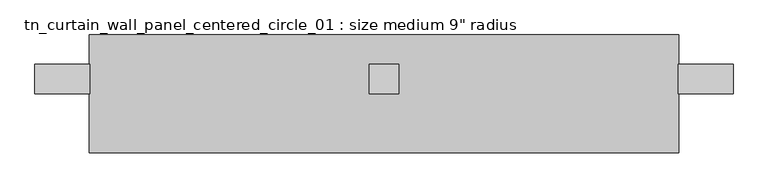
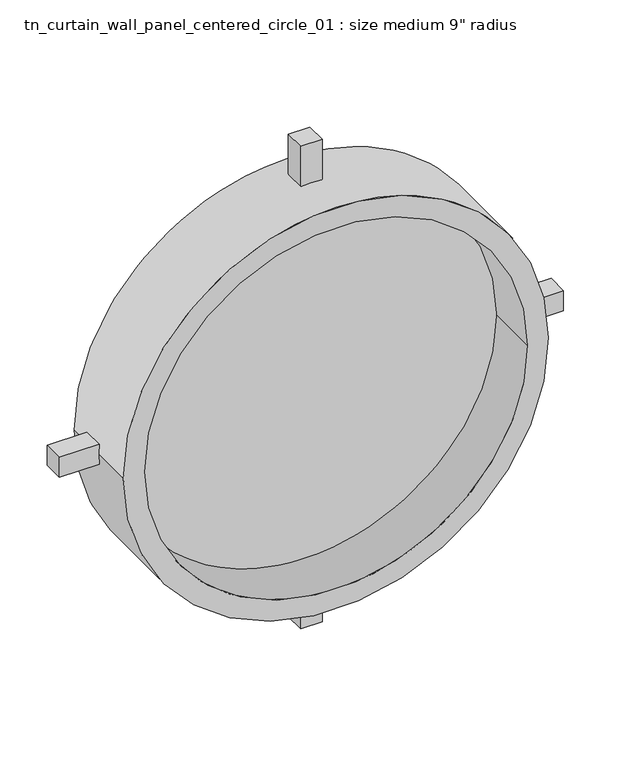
"""IFC4 building model written with IfcOpenShell, lengths in millimetres: plate geometry."""

from ifc_helpers import new_model, si_unit, point, frame, frame_2d, origin, place, context, project, spatial, polyline, circle_curve, trimmed, segment, composite_curve, outline, extrude, source, transform, mapped, element, save
from ifc_brep_helpers import plane_surface, cylinder_surface, revolved_surface, advanced_brep


def plate_c9a262b8(model_context):
    return source(origin(), model_context, "Body", "SolidModel", [
        extrude(outline(composite_curve([segment(trimmed(circle_curve(frame_2d((609.6, 0.0)), 457.2), [point((609.6, -457.2))], [point((609.6, 457.2))], False, "CARTESIAN"), True, "CONTINUOUS"), segment(trimmed(circle_curve(frame_2d((609.6, 0.0)), 457.2), [point((609.6, 457.2))], [point((609.6, -457.2))], False, "CARTESIAN"), True, "CONTINUOUS")], self_intersect=False)), frame((0.0, -25.4, 0.0), z_axis=(0.0, 1.0, 0.0), x_axis=(0.0, 0.0, 1.0)), (0.0, 0.0, 1.0), 25.4),
        advanced_brep(
        [(602.0378087, -50.8, 584.2), (602.0378087, -50.8, 635.0), (507.3646026, -50.8, 635.0), (508.0, -50.8, 609.6), (507.3646026, -50.8, 584.2), (-602.0378087, -50.8, 635.0), (-602.0378087, -50.8, 584.2), (-507.3646026, -50.8, 584.2), (-508.0, -50.8, 609.6), (-507.3646026, -50.8, 635.0), (25.4, -50.8, 1219.2), (-25.4, -50.8, 1219.2), (-25.4, -50.8, 1116.9646026), (25.4, -50.8, 1116.9646026), (-25.4, -50.8, 0.0), (25.4, -50.8, 0.0), (25.4, -50.8, 102.2353974), (-25.4, -50.8, 102.2353974), (602.0378087, 0.0, 635.0), (602.0378087, 0.0, 584.2), (507.3646026, 0.0, 584.2), (508.0, 0.0, 609.6), (507.3646026, 0.0, 635.0), (-602.0378087, 0.0, 584.2), (-602.0378087, 0.0, 635.0), (-507.3646026, 0.0, 635.0), (-508.0, 0.0, 609.6), (-507.3646026, 0.0, 584.2), (-25.4, 0.0, 1219.2), (25.4, 0.0, 1219.2), (25.4, 0.0, 1116.9646026), (-25.4, 0.0, 1116.9646026), (25.4, 0.0, 0.0), (-25.4, 0.0, 0.0), (-25.4, 0.0, 102.2353974), (25.4, 0.0, 102.2353974), (-508.0, -152.4, 609.6), (508.0, -152.4, 609.6), (-457.2, -152.4, 609.6), (457.2, -152.4, 609.6), (-508.0, 50.8, 609.6), (508.0, 50.8, 609.6), (-457.2, 50.8, 609.6), (457.2, 50.8, 609.6)],
        [
            (0, 1),
            (1, 2),
            (2, 3, circle_curve(frame((0.0, -50.8, 609.6), z_axis=(0.0, 1.0, 0.0), x_axis=(1.0, 0.0, 0.0)), 508.0)),
            (3, 4, circle_curve(frame((0.0, -50.8, 609.6), z_axis=(0.0, 1.0, 0.0), x_axis=(1.0, 0.0, 0.0)), 508.0)),
            (4, 0),
            (5, 6),
            (6, 7),
            (7, 8, circle_curve(frame((0.0, -50.8, 609.6), z_axis=(0.0, 1.0, 0.0), x_axis=(1.0, 0.0, 0.0)), 508.0)),
            (8, 9, circle_curve(frame((0.0, -50.8, 609.6), z_axis=(0.0, 1.0, 0.0), x_axis=(1.0, 0.0, 0.0)), 508.0)),
            (9, 5),
            (10, 11),
            (11, 12),
            (12, 13, circle_curve(frame((0.0, -50.8, 609.6), z_axis=(0.0, 1.0, 0.0), x_axis=(1.0, 0.0, 0.0)), 508.0)),
            (13, 10),
            (14, 15),
            (15, 16),
            (16, 17, circle_curve(frame((0.0, -50.8, 609.6), z_axis=(0.0, 1.0, 0.0), x_axis=(1.0, 0.0, 0.0)), 508.0)),
            (17, 14),
            (18, 19),
            (19, 20),
            (20, 21, circle_curve(frame((0.0, 0.0, 609.6), z_axis=(0.0, -1.0, 0.0), x_axis=(1.0, 0.0, 0.0)), 508.0)),
            (21, 22, circle_curve(frame((0.0, 0.0, 609.6), z_axis=(0.0, -1.0, 0.0), x_axis=(1.0, 0.0, 0.0)), 508.0)),
            (22, 18),
            (23, 24),
            (24, 25),
            (25, 26, circle_curve(frame((0.0, 0.0, 609.6), z_axis=(0.0, -1.0, 0.0), x_axis=(1.0, 0.0, 0.0)), 508.0)),
            (26, 27, circle_curve(frame((0.0, 0.0, 609.6), z_axis=(0.0, -1.0, 0.0), x_axis=(1.0, 0.0, 0.0)), 508.0)),
            (27, 23),
            (28, 29),
            (29, 30),
            (30, 31, circle_curve(frame((0.0, 0.0, 609.6), z_axis=(0.0, -1.0, 0.0), x_axis=(1.0, 0.0, 0.0)), 508.0)),
            (31, 28),
            (32, 33),
            (33, 34),
            (34, 35, circle_curve(frame((0.0, 0.0, 609.6), z_axis=(0.0, -1.0, 0.0), x_axis=(1.0, 0.0, 0.0)), 508.0)),
            (35, 32),
            (19, 0),
            (4, 20),
            (18, 1),
            (22, 2),
            (5, 24),
            (23, 6),
            (27, 7),
            (9, 25),
            (11, 28),
            (31, 12),
            (29, 10),
            (13, 30),
            (33, 14),
            (17, 34),
            (32, 15),
            (35, 16),
            (36, 37, circle_curve(frame((0.0, -152.4, 609.6), z_axis=(0.0, -1.0, 0.0), x_axis=(1.0, 0.0, 0.0)), 508.0)),
            (37, 36, circle_curve(frame((0.0, -152.4, 609.6), z_axis=(0.0, -1.0, 0.0), x_axis=(1.0, 0.0, 0.0)), 508.0)),
            (38, 39, circle_curve(frame((0.0, -152.4, 609.6), z_axis=(0.0, 1.0, 0.0), x_axis=(1.0, 0.0, 0.0)), 457.2)),
            (39, 38, circle_curve(frame((0.0, -152.4, 609.6), z_axis=(0.0, 1.0, 0.0), x_axis=(1.0, 0.0, 0.0)), 457.2)),
            (40, 41, circle_curve(frame((0.0, 50.8, 609.6), z_axis=(0.0, 1.0, 0.0), x_axis=(1.0, 0.0, 0.0)), 508.0)),
            (41, 40, circle_curve(frame((0.0, 50.8, 609.6), z_axis=(0.0, 1.0, 0.0), x_axis=(1.0, 0.0, 0.0)), 508.0)),
            (42, 43, circle_curve(frame((0.0, 50.8, 609.6), z_axis=(0.0, -1.0, 0.0), x_axis=(1.0, 0.0, 0.0)), 457.2)),
            (43, 42, circle_curve(frame((0.0, 50.8, 609.6), z_axis=(0.0, -1.0, 0.0), x_axis=(1.0, 0.0, 0.0)), 457.2)),
            (36, 8),
            (26, 40),
            (41, 21),
            (3, 37),
            (38, 42),
            (43, 39),
        ],
        [
            plane_surface(frame((482.6, -50.8, 635.0), z_axis=(0.0, -1.0, 0.0), x_axis=(0.0, 0.0, -1.0))),
            plane_surface(frame((482.6, 0.0, 635.0), z_axis=(0.0, 1.0, 0.0), x_axis=(0.0, 0.0, 1.0))),
            plane_surface(frame((482.6, -50.8, 584.2), z_axis=(0.0, 0.0, -1.0), x_axis=(0.0, 1.0, 0.0))),
            plane_surface(frame((602.0378087, -50.8, 584.2), z_axis=(1.0, 0.0, 0.0), x_axis=(0.0, 1.0, 0.0))),
            plane_surface(frame((602.0378087, -50.8, 635.0), z_axis=(0.0, 0.0, 1.0), x_axis=(0.0, 1.0, 0.0))),
            plane_surface(frame((-602.0378087, -50.8, 635.0), z_axis=(-1.0, 0.0, 0.0), x_axis=(0.0, 1.0, 0.0))),
            plane_surface(frame((-602.0378087, -50.8, 584.2), z_axis=(0.0, 0.0, -1.0), x_axis=(0.0, 1.0, 0.0))),
            plane_surface(frame((-482.6, -50.8, 635.0), z_axis=(0.0, 0.0, 1.0), x_axis=(0.0, 1.0, 0.0))),
            plane_surface(frame((-25.4, -50.8, 1219.2), z_axis=(-1.0, 0.0, 0.0), x_axis=(0.0, 1.0, 0.0))),
            plane_surface(frame((25.4, -50.8, 1092.2), z_axis=(1.0, 0.0, 0.0), x_axis=(0.0, 1.0, 0.0))),
            plane_surface(frame((25.4, -50.8, 1219.2), z_axis=(0.0, 0.0, 1.0), x_axis=(0.0, 1.0, 0.0))),
            plane_surface(frame((-25.4, -50.8, 127.0), z_axis=(-1.0, 0.0, 0.0), x_axis=(0.0, 1.0, 0.0))),
            plane_surface(frame((-25.4, -50.8, 0.0), z_axis=(0.0, 0.0, -1.0), x_axis=(0.0, 1.0, 0.0))),
            plane_surface(frame((25.4, -50.8, 0.0), z_axis=(1.0, 0.0, 0.0), x_axis=(0.0, 1.0, 0.0))),
            plane_surface(frame((508.0, -152.4, 609.6), z_axis=(0.0, -1.0, 0.0), x_axis=(0.0, 0.0, 1.0))),
            plane_surface(frame((508.0, 50.8, 609.6), z_axis=(0.0, 1.0, 0.0), x_axis=(0.0, 0.0, -1.0))),
            cylinder_surface(frame((0.0, 50.8, 609.6), z_axis=(0.0, -1.0, 0.0), x_axis=(1.0, 0.0, 0.0)), 508.0),
            revolved_surface(polyline([(457.2, 50.8, 609.6), (457.2, -152.4, 609.6)]), (0.0, 0.0, 609.6), (0.0, 1.0, 0.0)),
        ],
        [
            (0, [[1, 2, 3, 4, 5]]),
            (0, [[6, 7, 8, 9, 10]]),
            (0, [[11, 12, 13, 14]]),
            (0, [[15, 16, 17, 18]]),
            (1, [[19, 20, 21, 22, 23]]),
            (1, [[24, 25, 26, 27, 28]]),
            (1, [[29, 30, 31, 32]]),
            (1, [[33, 34, 35, 36]]),
            (2, [[37, -5, 38, -20]]),
            (3, [[-1, -37, -19, 39]]),
            (4, [[-39, -23, 40, -2]]),
            (5, [[-6, 41, -24, 42]]),
            (6, [[-42, -28, 43, -7]]),
            (7, [[-41, -10, 44, -25]]),
            (8, [[45, -32, 46, -12]]),
            (9, [[47, -14, 48, -30]]),
            (10, [[-11, -47, -29, -45]]),
            (11, [[49, -18, 50, -34]]),
            (12, [[-15, -49, -33, 51]]),
            (13, [[-51, -36, 52, -16]]),
            (14, [[53, 54], [55, 56]]),
            (15, [[57, 58], [59, 60]]),
            (16, [[-53, 61, -8, -43, -27, 62, -58, 63, -21, -38, -4, 64], [-17, -52, -35, -50]]),
            (16, [[-54, -64, -3, -40, -22, -63, -57, -62, -26, -44, -9, -61], [-13, -46, -31, -48]]),
            (17, [[-55, 65, -60, 66]]),
            (17, [[-56, -66, -59, -65]]),
        ],
    ),
    ])


if __name__ == "__main__":
    model = new_model("IFC4")
    model_context = context("Model", 3, world=origin())
    ifc_project = project(units=[si_unit("LENGTHUNIT", "METRE", prefix="MILLI")], contexts=[model_context])
    site = spatial("IfcSite", under=ifc_project)
    building = spatial("IfcBuilding", under=site)
    placement = place(None, origin())
    plate_shape = plate_c9a262b8(model_context)
    element("IfcPlate", 1, ObjectType="tn_curtain_wall_panel_centered_circle_01 : size medium 9\" radius", at=placement, inside=building, context=model_context, shape_type="MappedRepresentation", body=[
        mapped(plate_shape, transform((0.0, 0.0, 0.0), x_axis=(1.0, 0.0, 0.0), y_axis=(0.0, 1.0, 0.0), z_axis=(0.0, 0.0, 1.0))),
    ])
    save(model, "model.ifc")
